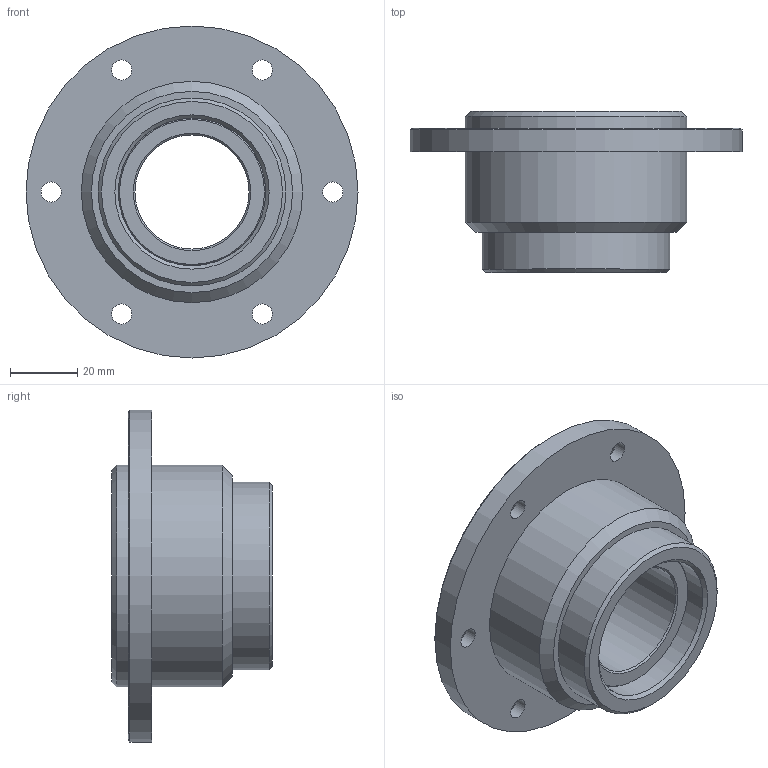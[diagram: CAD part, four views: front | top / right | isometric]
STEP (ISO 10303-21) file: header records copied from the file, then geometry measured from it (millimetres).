
FILE_DESCRIPTION(('STEP AP214'),'1');
FILE_NAME('C:/Projets/Serie 10.xx.xx/10.13.03.step','2011-11-10T15:42:32',(' '),(' '),'Spatial InterOp 3D',' ',' ');
FILE_SCHEMA(('automotive_design'));
Length unit declared in the file: metre
Products named in the file (3): boitier 03; rotule 03; 1
Bounding box: 99 x 48 x 99 mm (x, y, z)
Volume: 121907.1 mm3; surface area: 40183.7 mm2
Topology: 2 solids, 2 shells, 58 faces, 529 edges, 852 vertices
Faces by surface type: cone 21, cylinder 20, plane 15, sphere 2
Full cylindrical faces by diameter (mm): 6 x6, 34 x1, 44 x1, 56 x1, 66 x2, 99 x1
Entity records: 6747 total; most frequent: CARTESIAN_POINT 703, DIRECTION 672, STYLED_ITEM 450, PRESENTATION_STYLE_ASSIGNMENT 450, COLOUR_RGB 450, LINE 416, VECTOR 416, TRIMMED_CURVE 392
